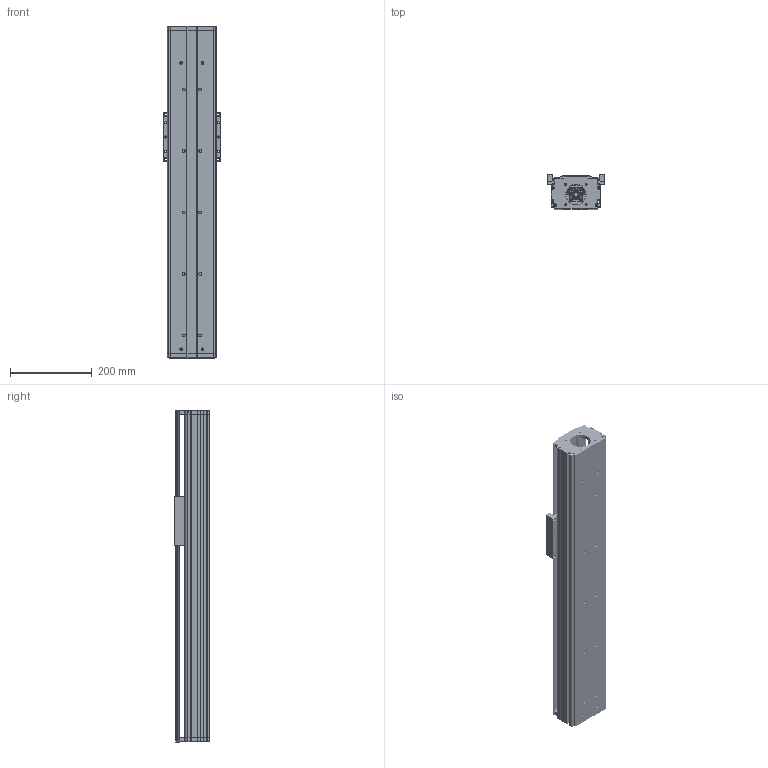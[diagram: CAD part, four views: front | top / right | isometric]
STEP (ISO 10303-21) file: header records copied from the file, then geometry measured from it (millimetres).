
FILE_DESCRIPTION (( 'STEP AP203' ), '1' );
FILE_NAME ('CF120-P600.STEP', '2016-02-23T02:01:42', ( 'Sky123.Org' ), ( 'Sky123.Org' ), 'SwSTEP 2.0', 'SolidWorks 2015', '' );
FILE_SCHEMA (( 'CONFIG_CONTROL_DESIGN' ));
Length unit declared in the file: millimetre
Products named in the file (15): EK12+EF12-P600-744; SFU1605-3蹟譫; CF120-P350-540臏倰第; EK12; CF120-P350-560裔啣; 粣創結啣; CF120-P600; EF12; CF120賑雄啣; cf120-60萇儂釱; CF120蹟譫釱; CF120傷裔耜啣-sigan; EGR15-P600-880; EGH-15-CABZnew
Assembly tree (18 placements, depth 3):
  CF120-P600
    cf120-60萇儂釱
    CF120傷裔耜啣-sigan
    EGH-15-CABZnew  x4
    SFU1605-3蹟譫
    EK12
      EK12
      粣創結啣
    EF12
    CF120賑雄啣
    CF120蹟譫釱
    EGR15-P600-880  x2
    EK12+EF12-P600-744
    CF120-P350-540臏倰第
    CF120-P350-560裔啣
Bounding box: 140 x 84.5 x 810 mm (x, y, z)
Volume: 2906468 mm3; surface area: 1006757.7 mm2
Topology: 13 solids, 65 shells, 7309 faces, 27558 edges, 18941 vertices
Faces by surface type: plane 3541, bspline 2351, cylinder 1027, cone 150, torus 136, sphere 104
Entity records: 131143 total; most frequent: CARTESIAN_POINT 57924, ORIENTED_EDGE 15638, DIRECTION 12223, EDGE_CURVE 8943, VERTEX_POINT 6094, VECTOR 5209, LINE 5209, AXIS2_PLACEMENT_3D 3507
